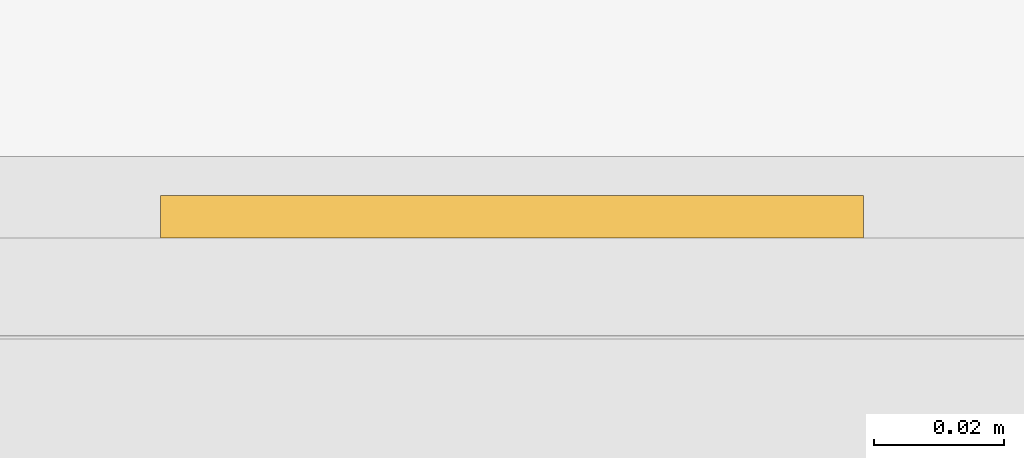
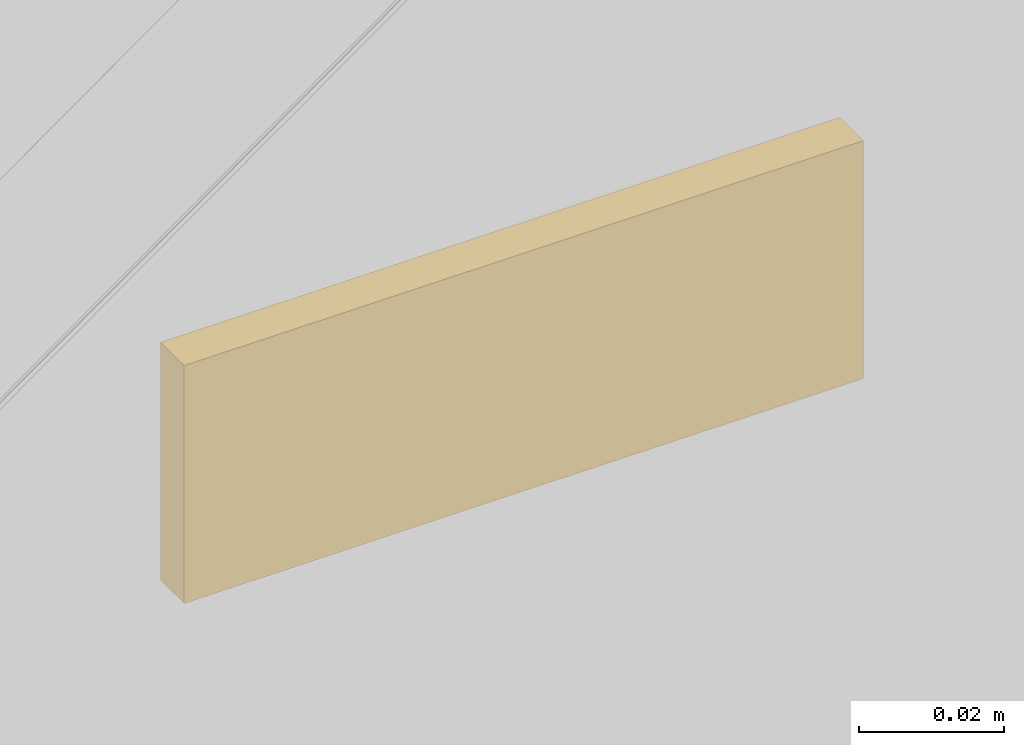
# One storey, part 49 of 54: 1 covering.
"""IFC2X3 building model written with IfcOpenShell, lengths in millimetres."""

from ifc_helpers import new_model, entity, si_unit, converted_unit, derived_unit, money_unit, direction, frame, origin_with_axes, place, context, subcontext, project, spatial, faceted_brep, material, type_object, element, save


model = new_model("IFC2X3")

# Units and contexts
model_context = context("Model", 3, precision=0.01, world=origin_with_axes(), true_north=direction((0.0, 1.0)))
body_context = subcontext(model_context, "Body", "Model", "MODEL_VIEW")
ifc_project = project(units=[si_unit("LENGTHUNIT", "METRE", prefix="MILLI"), si_unit("AREAUNIT", "SQUARE_METRE"), si_unit("VOLUMEUNIT", "CUBIC_METRE"), converted_unit("PLANEANGLEUNIT", "DEGREE", entity("IfcPlaneAngleMeasure", 0.0174532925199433), si_unit("PLANEANGLEUNIT", "RADIAN"), dimensions=[0, 0, 0, 0, 0, 0, 0]), money_unit("EUR"), converted_unit("TIMEUNIT", "Year", entity("IfcTimeMeasure", 31557600.0), si_unit("TIMEUNIT", "SECOND"), dimensions=[0, 0, 1, 0, 0, 0, 0]), si_unit("MASSUNIT", "GRAM", prefix="KILO"), si_unit("THERMODYNAMICTEMPERATUREUNIT", "DEGREE_CELSIUS"), si_unit("LUMINOUSINTENSITYUNIT", "LUMEN"), si_unit("ENERGYUNIT", "JOULE", prefix="MEGA"), derived_unit("THERMALCONDUCTANCEUNIT", [(si_unit("POWERUNIT", "WATT"), 1), (si_unit("LENGTHUNIT", "METRE"), -1), (si_unit("THERMODYNAMICTEMPERATUREUNIT", "KELVIN"), -1)]), derived_unit("SPECIFICHEATCAPACITYUNIT", [(si_unit("ENERGYUNIT", "JOULE"), 1), (si_unit("MASSUNIT", "GRAM", prefix="KILO"), -1), (si_unit("THERMODYNAMICTEMPERATUREUNIT", "KELVIN"), -1)]), derived_unit("MASSDENSITYUNIT", [(si_unit("MASSUNIT", "GRAM", prefix="KILO"), 1), (si_unit("VOLUMEUNIT", "CUBIC_METRE"), -1)])], contexts=[model_context])

# Site, building, storey
site_placement = place(None, origin_with_axes())
site = spatial("IfcSite", under=ifc_project, at=site_placement, Name="<site naam>", CompositionType="ELEMENT")
building_placement = place(site_placement, origin_with_axes())
building = spatial("IfcBuilding", under=site, at=building_placement, Name="<Naam gebouw>", CompositionType="ELEMENT")
storey_placement = place(building_placement, frame((0.0, 0.0, 8500.0), z_axis=(0.0, 0.0, 1.0), x_axis=(1.0, 0.0, 0.0)))
storey = spatial("IfcBuildingStorey", under=building, at=storey_placement, Name="02 2e verdieping", CompositionType="ELEMENT", Elevation=8500.0)

# Covering
ifc_material = material(Name="systeemplafond 600*600 kleur wit")
covering_type = type_object("IfcCoveringType", Name="PA-01a 40", PredefinedType="CEILING")
covering_placement = place(storey_placement, frame((15417.00000000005, 74.99991295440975, 3699.999999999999), z_axis=(0.0, 0.0, 1.0), x_axis=(1.0, 0.0, 0.0)))
element("IfcCovering", 1, at=covering_placement, inside=storey, type_object=covering_type, material=ifc_material, Name="45_Vloer_PA-01a", PredefinedType="CEILING", context=body_context, shape_type="Brep", body=[
    faceted_brep([(0.0, 41.00008704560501, 40.00000000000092), (0.0, 34.5000870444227, 40.00000000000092), (108.0000175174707, 34.50008704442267, 40.00000000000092), (108.0000175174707, 41.00008704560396, 40.00000000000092), (0.0, 41.00008704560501, 0.0), (0.0, 34.5000870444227, 0.0), (108.0000175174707, 34.50008704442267, 0.0), (108.0000175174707, 41.00008704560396, 0.0)], [[[0, 1, 2, 3]], [[4, 5, 1, 0]], [[5, 6, 2, 1]], [[3, 2, 6, 7]], [[0, 3, 7, 4]], [[7, 6, 5, 4]]]),
])

save(model, "model.ifc")
